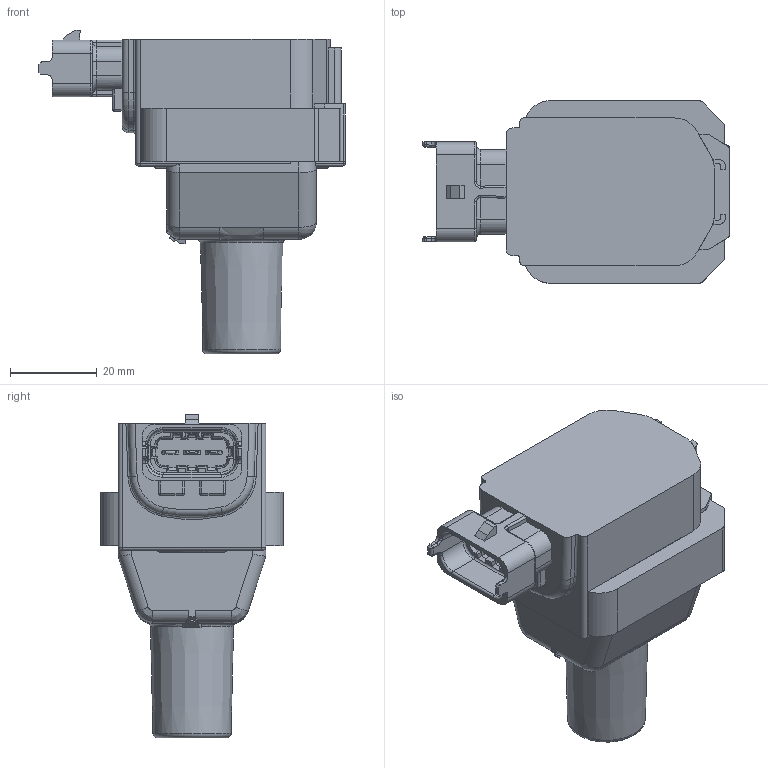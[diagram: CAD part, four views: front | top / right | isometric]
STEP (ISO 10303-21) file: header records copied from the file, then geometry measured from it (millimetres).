
FILE_DESCRIPTION(/* description */ (''),/* implementation_level */ '2;1');
FILE_NAME(/* name */ '0221504001',/* time_stamp */ '2009-10-12T10:47:54+02:00',/* author */ (''),/* organization */ (''),/* preprocessor_version */ 'ST-DEVELOPER v9',/* originating_system */ 'UGS - NX 4.0',/* authorisation */ '');
FILE_SCHEMA (('AUTOMOTIVE_DESIGN { 1 0 10303 214 1 1 1 1 }'));
Length unit declared in the file: millimetre
Products named in the file (1): del235D7e7as
Bounding box: 70.4 x 42 x 74.45 mm (x, y, z)
Volume: 74607 mm3; surface area: 21316.4 mm2
Topology: 6 solids, 8 shells, 545 faces, 1392 edges, 863 vertices
Faces by surface type: plane 294, cylinder 170, torus 27, bspline 26, cone 16, sphere 12
Full cylindrical faces by diameter (mm): 1.5 x1, 3 x1, 4 x2, 6 x1, 7.6 x2
Entity records: 16814 total; most frequent: CARTESIAN_POINT 3559, DIRECTION 2773, ORIENTED_EDGE 2708, EDGE_CURVE 1354, AXIS2_PLACEMENT_3D 942, LINE 889, VECTOR 889, VERTEX_POINT 860
